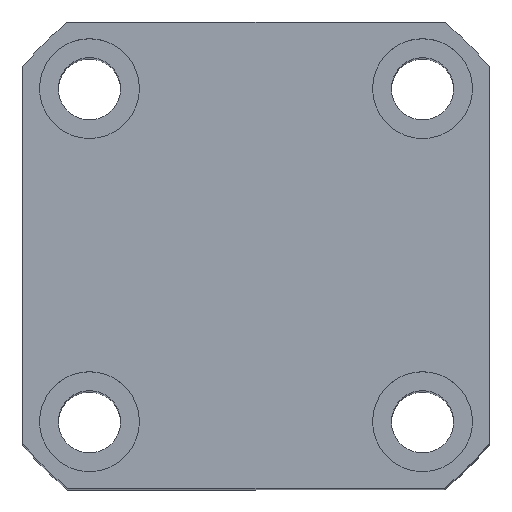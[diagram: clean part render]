
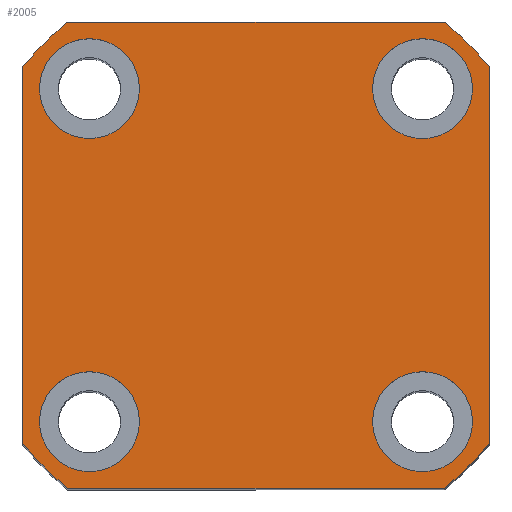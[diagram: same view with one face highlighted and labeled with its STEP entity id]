
A CAD part, top view. The second image highlights one B-rep face of the part: STEP entity #2005.
In plain terms, the highlighted planar face has unit normal (0, 0, 1).
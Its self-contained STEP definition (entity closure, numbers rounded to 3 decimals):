
#64 = DIRECTION ( 'NONE',  ( 0., 0., 1. ) ) ;
#72 = EDGE_CURVE ( 'NONE', #10894, #2662, #4973, .T. ) ;
#269 = EDGE_CURVE ( 'NONE', #2343, #5042, #12451, .T. ) ;
#342 = ORIENTED_EDGE ( 'NONE', *, *, #12686, .T. ) ;
#448 = ORIENTED_EDGE ( 'NONE', *, *, #72, .T. ) ;
#472 = ORIENTED_EDGE ( 'NONE', *, *, #1393, .T. ) ;
#477 = DIRECTION ( 'NONE',  ( 1., 0., 0. ) ) ;
#504 = CARTESIAN_POINT ( 'NONE',  ( -16.971, 21., 88. ) ) ;
#526 = EDGE_CURVE ( 'NONE', #11859, #936, #5144, .T. ) ;
#548 = AXIS2_PLACEMENT_3D ( 'NONE', #13295, #6974, #477 ) ;
#621 = CIRCLE ( 'NONE', #12511, 4.5 ) ;
#697 = CARTESIAN_POINT ( 'NONE',  ( -16.971, -21., 88. ) ) ;
#831 = CARTESIAN_POINT ( 'NONE',  ( 21., 21., 88. ) ) ;
#874 = CARTESIAN_POINT ( 'NONE',  ( 15., 15., 88. ) ) ;
#936 = VERTEX_POINT ( 'NONE', #13383 ) ;
#981 = ORIENTED_EDGE ( 'NONE', *, *, #10130, .T. ) ;
#1002 = DIRECTION ( 'NONE',  ( 0., 0., 1. ) ) ;
#1092 = CARTESIAN_POINT ( 'NONE',  ( 0., 0., 88. ) ) ;
#1156 = DIRECTION ( 'NONE',  ( 0., 0., 1. ) ) ;
#1196 = FACE_BOUND ( 'NONE', #7022, .T. ) ;
#1371 = DIRECTION ( 'NONE',  ( 1., 0., 0. ) ) ;
#1393 = EDGE_CURVE ( 'NONE', #8219, #10894, #13774, .T. ) ;
#1495 = CARTESIAN_POINT ( 'NONE',  ( 0., 0., 88. ) ) ;
#1569 = VERTEX_POINT ( 'NONE', #6804 ) ;
#1824 = ORIENTED_EDGE ( 'NONE', *, *, #5197, .T. ) ;
#1876 = VERTEX_POINT ( 'NONE', #8735 ) ;
#1979 = DIRECTION ( 'NONE',  ( 1., 0., 0. ) ) ;
#2005 = ADVANCED_FACE ( 'NONE', ( #6614, #1196, #9489, #11922, #9140 ), #7866, .T. ) ;
#2133 = EDGE_LOOP ( 'NONE', ( #8098, #1824, #472, #448, #342, #10625, #981, #4564 ) ) ;
#2205 = DIRECTION ( 'NONE',  ( 1., 0., 0. ) ) ;
#2207 = ORIENTED_EDGE ( 'NONE', *, *, #526, .F. ) ;
#2215 = CIRCLE ( 'NONE', #8118, 27. ) ;
#2262 = DIRECTION ( 'NONE',  ( 1., 0., 0. ) ) ;
#2278 = DIRECTION ( 'NONE',  ( 0., 0., 1. ) ) ;
#2310 = CARTESIAN_POINT ( 'NONE',  ( 15., 15., 88. ) ) ;
#2343 = VERTEX_POINT ( 'NONE', #5311 ) ;
#2480 = CARTESIAN_POINT ( 'NONE',  ( 16.971, -21., 88. ) ) ;
#2576 = EDGE_CURVE ( 'NONE', #7965, #1569, #2215, .T. ) ;
#2577 = AXIS2_PLACEMENT_3D ( 'NONE', #1092, #8653, #2205 ) ;
#2662 = VERTEX_POINT ( 'NONE', #12880 ) ;
#2799 = EDGE_LOOP ( 'NONE', ( #7180, #8086 ) ) ;
#3073 = DIRECTION ( 'NONE',  ( 0., 1., 0. ) ) ;
#3178 = LINE ( 'NONE', #831, #11054 ) ;
#3729 = AXIS2_PLACEMENT_3D ( 'NONE', #2310, #2278, #2262 ) ;
#3998 = CARTESIAN_POINT ( 'NONE',  ( 16.971, 21., 88. ) ) ;
#4036 = CIRCLE ( 'NONE', #2577, 27. ) ;
#4071 = CARTESIAN_POINT ( 'NONE',  ( 15., -14.998, 88. ) ) ;
#4129 = CARTESIAN_POINT ( 'NONE',  ( -15., 15.002, 88. ) ) ;
#4310 = DIRECTION ( 'NONE',  ( 0., 0., 1. ) ) ;
#4564 = ORIENTED_EDGE ( 'NONE', *, *, #2576, .T. ) ;
#4652 = EDGE_CURVE ( 'NONE', #11159, #1876, #8238, .T. ) ;
#4657 = EDGE_LOOP ( 'NONE', ( #13628, #2207 ) ) ;
#4675 = DIRECTION ( 'NONE',  ( 1., 0., 0. ) ) ;
#4721 = AXIS2_PLACEMENT_3D ( 'NONE', #1495, #11411, #1371 ) ;
#4730 = CIRCLE ( 'NONE', #7611, 27. ) ;
#4796 = CARTESIAN_POINT ( 'NONE',  ( 21., 16.971, 88. ) ) ;
#4973 = CIRCLE ( 'NONE', #4721, 27. ) ;
#5042 = VERTEX_POINT ( 'NONE', #10502 ) ;
#5139 = DIRECTION ( 'NONE',  ( 1., 0., 0. ) ) ;
#5144 = CIRCLE ( 'NONE', #3729, 4.5 ) ;
#5197 = EDGE_CURVE ( 'NONE', #10880, #8219, #4730, .T. ) ;
#5205 = DIRECTION ( 'NONE',  ( 1., 0., 0. ) ) ;
#5219 = ORIENTED_EDGE ( 'NONE', *, *, #4652, .F. ) ;
#5311 = CARTESIAN_POINT ( 'NONE',  ( -10.5, -14.998, 88. ) ) ;
#5547 = CIRCLE ( 'NONE', #12693, 4.5 ) ;
#5747 = CARTESIAN_POINT ( 'NONE',  ( -21., -16.971, 88. ) ) ;
#5765 = CARTESIAN_POINT ( 'NONE',  ( 10.5, 15., 88. ) ) ;
#6065 = ORIENTED_EDGE ( 'NONE', *, *, #8359, .F. ) ;
#6518 = EDGE_LOOP ( 'NONE', ( #5219, #6065 ) ) ;
#6586 = CARTESIAN_POINT ( 'NONE',  ( -15., -14.998, 88. ) ) ;
#6614 = FACE_BOUND ( 'NONE', #6518, .T. ) ;
#6651 = EDGE_CURVE ( 'NONE', #1569, #10880, #3178, .T. ) ;
#6804 = CARTESIAN_POINT ( 'NONE',  ( 21., -16.971, 88. ) ) ;
#6891 = EDGE_CURVE ( 'NONE', #12940, #8206, #4036, .T. ) ;
#6974 = DIRECTION ( 'NONE',  ( 0., 0., 1. ) ) ;
#7022 = EDGE_LOOP ( 'NONE', ( #10240, #12954 ) ) ;
#7180 = ORIENTED_EDGE ( 'NONE', *, *, #7801, .F. ) ;
#7211 = CARTESIAN_POINT ( 'NONE',  ( -21., -21., 88. ) ) ;
#7346 = EDGE_CURVE ( 'NONE', #12417, #13136, #12201, .T. ) ;
#7472 = CARTESIAN_POINT ( 'NONE',  ( 0., 0., 88. ) ) ;
#7611 = AXIS2_PLACEMENT_3D ( 'NONE', #10712, #4310, #11760 ) ;
#7625 = CARTESIAN_POINT ( 'NONE',  ( -15., 15.002, 88. ) ) ;
#7657 = DIRECTION ( 'NONE',  ( 1., 0., 0. ) ) ;
#7801 = EDGE_CURVE ( 'NONE', #13136, #12417, #621, .T. ) ;
#7866 = PLANE ( 'NONE',  #10786 ) ;
#7965 = VERTEX_POINT ( 'NONE', #2480 ) ;
#8086 = ORIENTED_EDGE ( 'NONE', *, *, #7346, .F. ) ;
#8098 = ORIENTED_EDGE ( 'NONE', *, *, #6651, .T. ) ;
#8118 = AXIS2_PLACEMENT_3D ( 'NONE', #7472, #1002, #8554 ) ;
#8206 = VERTEX_POINT ( 'NONE', #697 ) ;
#8219 = VERTEX_POINT ( 'NONE', #3998 ) ;
#8238 = CIRCLE ( 'NONE', #9604, 4.5 ) ;
#8291 = DIRECTION ( 'NONE',  ( 1., 0., 0. ) ) ;
#8315 = AXIS2_PLACEMENT_3D ( 'NONE', #9047, #9018, #8980 ) ;
#8359 = EDGE_CURVE ( 'NONE', #1876, #11159, #5547, .T. ) ;
#8442 = DIRECTION ( 'NONE',  ( 0., 0., 1. ) ) ;
#8554 = DIRECTION ( 'NONE',  ( 1., 0., 0. ) ) ;
#8557 = LINE ( 'NONE', #11669, #13820 ) ;
#8574 = DIRECTION ( 'NONE',  ( 0., -1., 0. ) ) ;
#8653 = DIRECTION ( 'NONE',  ( 0., 0., 1. ) ) ;
#8710 = DIRECTION ( 'NONE',  ( 1., 0., 0. ) ) ;
#8735 = CARTESIAN_POINT ( 'NONE',  ( -19.5, 15.002, 88. ) ) ;
#8975 = CARTESIAN_POINT ( 'NONE',  ( 0., 0., 88. ) ) ;
#8980 = DIRECTION ( 'NONE',  ( 1., 0., 0. ) ) ;
#9018 = DIRECTION ( 'NONE',  ( 0., 0., 1. ) ) ;
#9047 = CARTESIAN_POINT ( 'NONE',  ( -15., -14.998, 88. ) ) ;
#9140 = FACE_OUTER_BOUND ( 'NONE', #2133, .T. ) ;
#9489 = FACE_BOUND ( 'NONE', #2799, .T. ) ;
#9604 = AXIS2_PLACEMENT_3D ( 'NONE', #7625, #1156, #8710 ) ;
#9734 = CIRCLE ( 'NONE', #10685, 4.5 ) ;
#10130 = EDGE_CURVE ( 'NONE', #8206, #7965, #10557, .T. ) ;
#10240 = ORIENTED_EDGE ( 'NONE', *, *, #269, .F. ) ;
#10502 = CARTESIAN_POINT ( 'NONE',  ( -19.5, -14.998, 88. ) ) ;
#10557 = LINE ( 'NONE', #7211, #13311 ) ;
#10625 = ORIENTED_EDGE ( 'NONE', *, *, #6891, .T. ) ;
#10685 = AXIS2_PLACEMENT_3D ( 'NONE', #6586, #64, #7657 ) ;
#10702 = CARTESIAN_POINT ( 'NONE',  ( 10.5, -14.998, 88. ) ) ;
#10712 = CARTESIAN_POINT ( 'NONE',  ( 0., 0., 88. ) ) ;
#10786 = AXIS2_PLACEMENT_3D ( 'NONE', #8975, #11085, #4675 ) ;
#10813 = CARTESIAN_POINT ( 'NONE',  ( -10.5, 15.002, 88. ) ) ;
#10880 = VERTEX_POINT ( 'NONE', #4796 ) ;
#10894 = VERTEX_POINT ( 'NONE', #504 ) ;
#11054 = VECTOR ( 'NONE', #3073, 1000. ) ;
#11085 = DIRECTION ( 'NONE',  ( 0., 0., 1. ) ) ;
#11159 = VERTEX_POINT ( 'NONE', #10813 ) ;
#11176 = EDGE_CURVE ( 'NONE', #5042, #2343, #9734, .T. ) ;
#11411 = DIRECTION ( 'NONE',  ( 0., 0., 1. ) ) ;
#11529 = DIRECTION ( 'NONE',  ( 0., 0., 1. ) ) ;
#11581 = AXIS2_PLACEMENT_3D ( 'NONE', #874, #8442, #1979 ) ;
#11597 = DIRECTION ( 'NONE',  ( 0., 0., 1. ) ) ;
#11669 = CARTESIAN_POINT ( 'NONE',  ( -21., 21., 88. ) ) ;
#11760 = DIRECTION ( 'NONE',  ( 1., 0., 0. ) ) ;
#11779 = CARTESIAN_POINT ( 'NONE',  ( 19.5, -14.998, 88. ) ) ;
#11859 = VERTEX_POINT ( 'NONE', #5765 ) ;
#11865 = CIRCLE ( 'NONE', #11581, 4.5 ) ;
#11922 = FACE_BOUND ( 'NONE', #4657, .T. ) ;
#12075 = CARTESIAN_POINT ( 'NONE',  ( -21., 21., 88. ) ) ;
#12165 = DIRECTION ( 'NONE',  ( -1., 0., 0. ) ) ;
#12201 = CIRCLE ( 'NONE', #548, 4.5 ) ;
#12297 = EDGE_CURVE ( 'NONE', #936, #11859, #11865, .T. ) ;
#12417 = VERTEX_POINT ( 'NONE', #10702 ) ;
#12451 = CIRCLE ( 'NONE', #8315, 4.5 ) ;
#12511 = AXIS2_PLACEMENT_3D ( 'NONE', #4071, #11529, #5139 ) ;
#12686 = EDGE_CURVE ( 'NONE', #2662, #12940, #8557, .T. ) ;
#12693 = AXIS2_PLACEMENT_3D ( 'NONE', #4129, #11597, #5205 ) ;
#12880 = CARTESIAN_POINT ( 'NONE',  ( -21., 16.971, 88. ) ) ;
#12940 = VERTEX_POINT ( 'NONE', #5747 ) ;
#12954 = ORIENTED_EDGE ( 'NONE', *, *, #11176, .F. ) ;
#13136 = VERTEX_POINT ( 'NONE', #11779 ) ;
#13295 = CARTESIAN_POINT ( 'NONE',  ( 15., -14.998, 88. ) ) ;
#13311 = VECTOR ( 'NONE', #8291, 1000. ) ;
#13383 = CARTESIAN_POINT ( 'NONE',  ( 19.5, 15., 88. ) ) ;
#13429 = VECTOR ( 'NONE', #12165, 1000. ) ;
#13628 = ORIENTED_EDGE ( 'NONE', *, *, #12297, .F. ) ;
#13774 = LINE ( 'NONE', #12075, #13429 ) ;
#13820 = VECTOR ( 'NONE', #8574, 1000. ) ;
